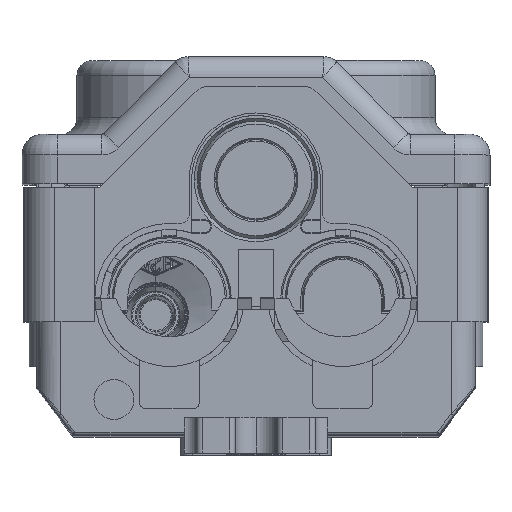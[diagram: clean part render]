
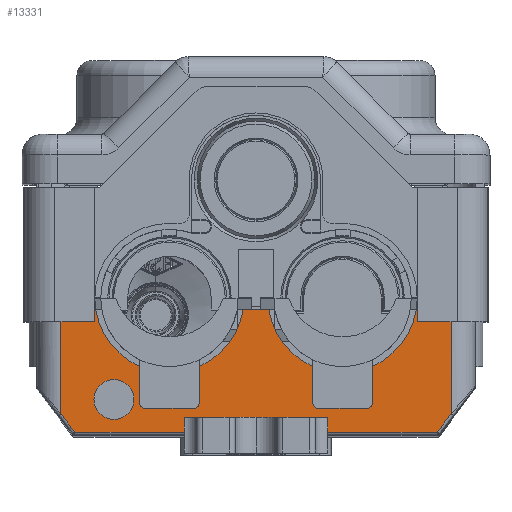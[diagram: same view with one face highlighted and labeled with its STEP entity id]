
A CAD part, top view. The second image highlights one B-rep face of the part: STEP entity #13331.
In plain terms, the highlighted planar face has unit normal (0, 0, 1).
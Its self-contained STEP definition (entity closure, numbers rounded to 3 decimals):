
#112 = EDGE_CURVE ( 'NONE', #13615, #18799, #17996, .T. ) ;
#688 = DIRECTION ( 'NONE',  ( 0., 0., 1. ) ) ;
#936 = CARTESIAN_POINT ( 'NONE',  ( 0., 3., 54.35 ) ) ;
#1847 = ORIENTED_EDGE ( 'NONE', *, *, #39038, .F. ) ;
#2576 = CIRCLE ( 'NONE', #27699, 3.35 ) ;
#2842 = EDGE_CURVE ( 'NONE', #25837, #10638, #45804, .T. ) ;
#2993 = CARTESIAN_POINT ( 'NONE',  ( -23.8, 6., 54.35 ) ) ;
#3830 = VECTOR ( 'NONE', #27073, 1000. ) ;
#3996 = VERTEX_POINT ( 'NONE', #27362 ) ;
#4155 = VECTOR ( 'NONE', #17721, 1000. ) ;
#4299 = ORIENTED_EDGE ( 'NONE', *, *, #8737, .T. ) ;
#5114 = CARTESIAN_POINT ( 'NONE',  ( -12., 3., 54.35 ) ) ;
#5238 = DIRECTION ( 'NONE',  ( 0., 0., 1. ) ) ;
#5325 = LINE ( 'NONE', #46869, #4155 ) ;
#5519 = CARTESIAN_POINT ( 'NONE',  ( -38.2, 23., 54.35 ) ) ;
#5546 = EDGE_CURVE ( 'NONE', #42692, #6609, #19965, .T. ) ;
#5818 = LINE ( 'NONE', #5114, #33924 ) ;
#5972 = VERTEX_POINT ( 'NONE', #41913 ) ;
#5974 = ORIENTED_EDGE ( 'NONE', *, *, #5546, .F. ) ;
#5998 = LINE ( 'NONE', #45121, #42630 ) ;
#6068 = ORIENTED_EDGE ( 'NONE', *, *, #36979, .T. ) ;
#6587 = AXIS2_PLACEMENT_3D ( 'NONE', #35431, #13544, #39055 ) ;
#6609 = VERTEX_POINT ( 'NONE', #45913 ) ;
#6727 = DIRECTION ( 'NONE',  ( 1., 0., 0. ) ) ;
#8506 = DIRECTION ( 'NONE',  ( 0., 1., 0. ) ) ;
#8545 = AXIS2_PLACEMENT_3D ( 'NONE', #44604, #688, #26430 ) ;
#8733 = FACE_BOUND ( 'NONE', #9725, .T. ) ;
#8737 = EDGE_CURVE ( 'NONE', #38632, #40269, #37658, .T. ) ;
#8813 = DIRECTION ( 'NONE',  ( 0., -1., 0. ) ) ;
#9725 = EDGE_LOOP ( 'NONE', ( #42010, #39116 ) ) ;
#10547 = CARTESIAN_POINT ( 'NONE',  ( -32.7, 0., 54.35 ) ) ;
#10638 = VERTEX_POINT ( 'NONE', #13443 ) ;
#10871 = DIRECTION ( 'NONE',  ( 0.602, 0.799, 0. ) ) ;
#11474 = EDGE_LOOP ( 'NONE', ( #6068, #46674, #4299, #35269, #41503, #15239, #20386, #42596, #30631, #1847, #18042, #37499, #5974, #26058 ) ) ;
#12121 = DIRECTION ( 'NONE',  ( 1., 0., 0. ) ) ;
#13245 = CARTESIAN_POINT ( 'NONE',  ( -12., 0.5, 54.35 ) ) ;
#13331 = ADVANCED_FACE ( 'NONE', ( #45347, #8733 ), #19123, .T. ) ;
#13443 = CARTESIAN_POINT ( 'NONE',  ( 12., 3., 54.35 ) ) ;
#13544 = DIRECTION ( 'NONE',  ( 0., 0., 1. ) ) ;
#13611 = EDGE_CURVE ( 'NONE', #25837, #40269, #5818, .T. ) ;
#13615 = VERTEX_POINT ( 'NONE', #30786 ) ;
#13872 = VECTOR ( 'NONE', #27492, 1000. ) ;
#15239 = ORIENTED_EDGE ( 'NONE', *, *, #40422, .T. ) ;
#16283 = VECTOR ( 'NONE', #26325, 1000. ) ;
#16319 = CARTESIAN_POINT ( 'NONE',  ( -30.351, 0.5, 54.35 ) ) ;
#17721 = DIRECTION ( 'NONE',  ( 1., 0., 0. ) ) ;
#17996 = CIRCLE ( 'NONE', #23499, 12.5 ) ;
#18042 = ORIENTED_EDGE ( 'NONE', *, *, #112, .F. ) ;
#18481 = CARTESIAN_POINT ( 'NONE',  ( 32.7, 3.618, 54.35 ) ) ;
#18799 = VERTEX_POINT ( 'NONE', #40899 ) ;
#18882 = AXIS2_PLACEMENT_3D ( 'NONE', #27238, #5238, #30904 ) ;
#19123 = PLANE ( 'NONE',  #8545 ) ;
#19965 = CIRCLE ( 'NONE', #6587, 12.5 ) ;
#20386 = ORIENTED_EDGE ( 'NONE', *, *, #45579, .T. ) ;
#20805 = CARTESIAN_POINT ( 'NONE',  ( -27.15, 6., 54.35 ) ) ;
#21115 = DIRECTION ( 'NONE',  ( 1., 0., 0. ) ) ;
#21478 = CARTESIAN_POINT ( 'NONE',  ( -27., 23., 54.35 ) ) ;
#21611 = DIRECTION ( 'NONE',  ( 0., -1., 0. ) ) ;
#21625 = VECTOR ( 'NONE', #39776, 1000. ) ;
#22336 = CARTESIAN_POINT ( 'NONE',  ( -12., 3., 54.35 ) ) ;
#23090 = EDGE_CURVE ( 'NONE', #44937, #38632, #43921, .T. ) ;
#23499 = AXIS2_PLACEMENT_3D ( 'NONE', #33365, #33214, #33056 ) ;
#25036 = VERTEX_POINT ( 'NONE', #44720 ) ;
#25145 = VECTOR ( 'NONE', #10871, 1000. ) ;
#25837 = VERTEX_POINT ( 'NONE', #22336 ) ;
#26058 = ORIENTED_EDGE ( 'NONE', *, *, #40221, .F. ) ;
#26325 = DIRECTION ( 'NONE',  ( 1., 0., 0. ) ) ;
#26430 = DIRECTION ( 'NONE',  ( 1., 0., 0. ) ) ;
#26828 = VECTOR ( 'NONE', #21115, 1000. ) ;
#27073 = DIRECTION ( 'NONE',  ( 0.602, -0.799, 0. ) ) ;
#27238 = CARTESIAN_POINT ( 'NONE',  ( -23.8, 6., 54.35 ) ) ;
#27362 = CARTESIAN_POINT ( 'NONE',  ( 30.351, 0.5, 54.35 ) ) ;
#27492 = DIRECTION ( 'NONE',  ( 1., 0., 0. ) ) ;
#27699 = AXIS2_PLACEMENT_3D ( 'NONE', #2993, #28695, #6727 ) ;
#28606 = CARTESIAN_POINT ( 'NONE',  ( 12., 0.5, 54.35 ) ) ;
#28695 = DIRECTION ( 'NONE',  ( 0., 0., 1. ) ) ;
#29125 = CARTESIAN_POINT ( 'NONE',  ( 19.118, -14.406, 54.35 ) ) ;
#30631 = ORIENTED_EDGE ( 'NONE', *, *, #37739, .T. ) ;
#30786 = CARTESIAN_POINT ( 'NONE',  ( 2.161, 21., 54.35 ) ) ;
#30904 = DIRECTION ( 'NONE',  ( 1., 0., 0. ) ) ;
#31337 = CIRCLE ( 'NONE', #18882, 3.35 ) ;
#32460 = DIRECTION ( 'NONE',  ( 1., 0., 0. ) ) ;
#33056 = DIRECTION ( 'NONE',  ( 1., 0., 0. ) ) ;
#33214 = DIRECTION ( 'NONE',  ( 0., 0., 1. ) ) ;
#33326 = LINE ( 'NONE', #5519, #13872 ) ;
#33365 = CARTESIAN_POINT ( 'NONE',  ( 14.5, 23., 54.35 ) ) ;
#33822 = CARTESIAN_POINT ( 'NONE',  ( -38.2, 23., 54.35 ) ) ;
#33924 = VECTOR ( 'NONE', #8813, 1000. ) ;
#34022 = VECTOR ( 'NONE', #32460, 1000. ) ;
#34268 = CARTESIAN_POINT ( 'NONE',  ( -19.118, -14.406, 54.35 ) ) ;
#34860 = LINE ( 'NONE', #29125, #25145 ) ;
#34880 = CARTESIAN_POINT ( 'NONE',  ( -32.7, 23., 54.35 ) ) ;
#35000 = VECTOR ( 'NONE', #21611, 1000. ) ;
#35206 = EDGE_CURVE ( 'NONE', #3996, #43576, #34860, .T. ) ;
#35269 = ORIENTED_EDGE ( 'NONE', *, *, #13611, .F. ) ;
#35431 = CARTESIAN_POINT ( 'NONE',  ( -14.5, 23., 54.35 ) ) ;
#35761 = CARTESIAN_POINT ( 'NONE',  ( 0., 0.5, 54.35 ) ) ;
#36099 = CARTESIAN_POINT ( 'NONE',  ( 12., 3., 54.35 ) ) ;
#36157 = LINE ( 'NONE', #36099, #35000 ) ;
#36979 = EDGE_CURVE ( 'NONE', #41007, #44937, #40993, .T. ) ;
#37499 = ORIENTED_EDGE ( 'NONE', *, *, #46019, .F. ) ;
#37658 = LINE ( 'NONE', #35761, #26828 ) ;
#37739 = EDGE_CURVE ( 'NONE', #43576, #25036, #5998, .T. ) ;
#38632 = VERTEX_POINT ( 'NONE', #16319 ) ;
#39038 = EDGE_CURVE ( 'NONE', #18799, #25036, #45369, .T. ) ;
#39055 = DIRECTION ( 'NONE',  ( 1., 0., 0. ) ) ;
#39116 = ORIENTED_EDGE ( 'NONE', *, *, #43651, .F. ) ;
#39776 = DIRECTION ( 'NONE',  ( 0., -1., 0. ) ) ;
#40221 = EDGE_CURVE ( 'NONE', #41007, #42692, #33326, .T. ) ;
#40269 = VERTEX_POINT ( 'NONE', #13245 ) ;
#40422 = EDGE_CURVE ( 'NONE', #10638, #46089, #36157, .T. ) ;
#40899 = CARTESIAN_POINT ( 'NONE',  ( 27., 23., 54.35 ) ) ;
#40993 = LINE ( 'NONE', #10547, #21625 ) ;
#41007 = VERTEX_POINT ( 'NONE', #34880 ) ;
#41459 = VERTEX_POINT ( 'NONE', #20805 ) ;
#41503 = ORIENTED_EDGE ( 'NONE', *, *, #2842, .T. ) ;
#41913 = CARTESIAN_POINT ( 'NONE',  ( -20.45, 6., 54.35 ) ) ;
#42010 = ORIENTED_EDGE ( 'NONE', *, *, #43969, .F. ) ;
#42596 = ORIENTED_EDGE ( 'NONE', *, *, #35206, .T. ) ;
#42630 = VECTOR ( 'NONE', #8506, 1000. ) ;
#42692 = VERTEX_POINT ( 'NONE', #21478 ) ;
#43576 = VERTEX_POINT ( 'NONE', #18481 ) ;
#43651 = EDGE_CURVE ( 'NONE', #41459, #5972, #31337, .T. ) ;
#43705 = LINE ( 'NONE', #46922, #34022 ) ;
#43921 = LINE ( 'NONE', #34268, #3830 ) ;
#43969 = EDGE_CURVE ( 'NONE', #5972, #41459, #2576, .T. ) ;
#44382 = CARTESIAN_POINT ( 'NONE',  ( -32.7, 3.618, 54.35 ) ) ;
#44604 = CARTESIAN_POINT ( 'NONE',  ( 0., 0., 54.35 ) ) ;
#44672 = VECTOR ( 'NONE', #12121, 1000. ) ;
#44720 = CARTESIAN_POINT ( 'NONE',  ( 32.7, 23., 54.35 ) ) ;
#44937 = VERTEX_POINT ( 'NONE', #44382 ) ;
#45121 = CARTESIAN_POINT ( 'NONE',  ( 32.7, 0., 54.35 ) ) ;
#45347 = FACE_OUTER_BOUND ( 'NONE', #11474, .T. ) ;
#45369 = LINE ( 'NONE', #33822, #16283 ) ;
#45579 = EDGE_CURVE ( 'NONE', #46089, #3996, #43705, .T. ) ;
#45804 = LINE ( 'NONE', #936, #44672 ) ;
#45913 = CARTESIAN_POINT ( 'NONE',  ( -2.161, 21., 54.35 ) ) ;
#46019 = EDGE_CURVE ( 'NONE', #6609, #13615, #5325, .T. ) ;
#46089 = VERTEX_POINT ( 'NONE', #28606 ) ;
#46674 = ORIENTED_EDGE ( 'NONE', *, *, #23090, .T. ) ;
#46869 = CARTESIAN_POINT ( 'NONE',  ( -2.161, 21., 54.35 ) ) ;
#46922 = CARTESIAN_POINT ( 'NONE',  ( 0., 0.5, 54.35 ) ) ;
